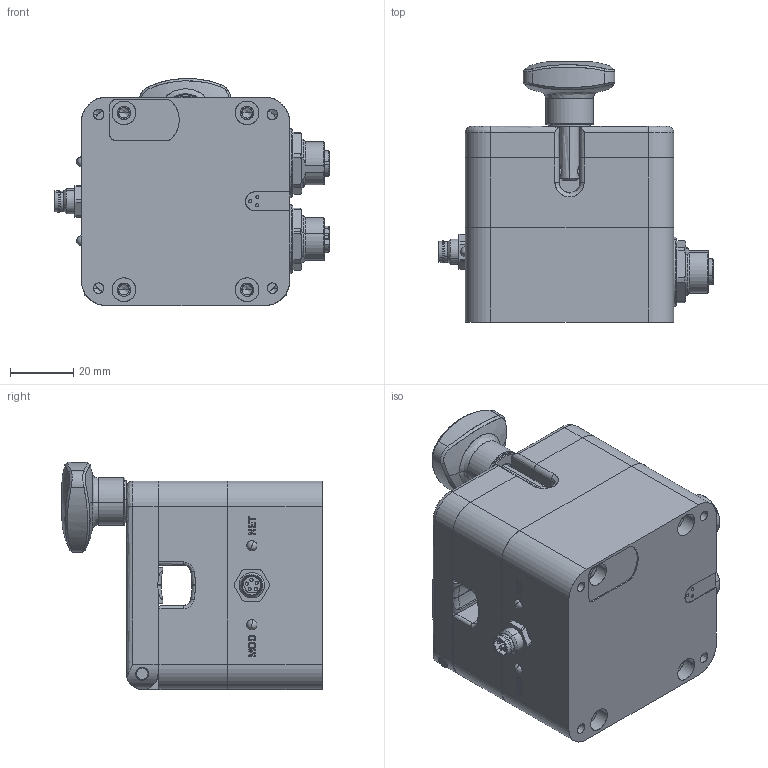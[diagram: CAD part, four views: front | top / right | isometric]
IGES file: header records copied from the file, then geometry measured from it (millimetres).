
Start section: SolidWorks IGES file using analytic representation for surfaces
Global section: file name: C:\Users\mhooglugt\Siemens\swcache\MFC117\BCU-0500.IGS; native system: SolidWorks 2023; preprocessor: SolidWorks 2023; author: MHooglugt; date: 250729.103017; units: inch
Bounding box: 87.1 x 82.5 x 71.89 mm (x, y, z)
Surface area: 61309.5 mm2 (no closed solid volume)
Topology: 0 solids, 0 shells, 1245 faces, 14933 edges, 14842 vertices
Faces by surface type: bspline 674, revolution 571
